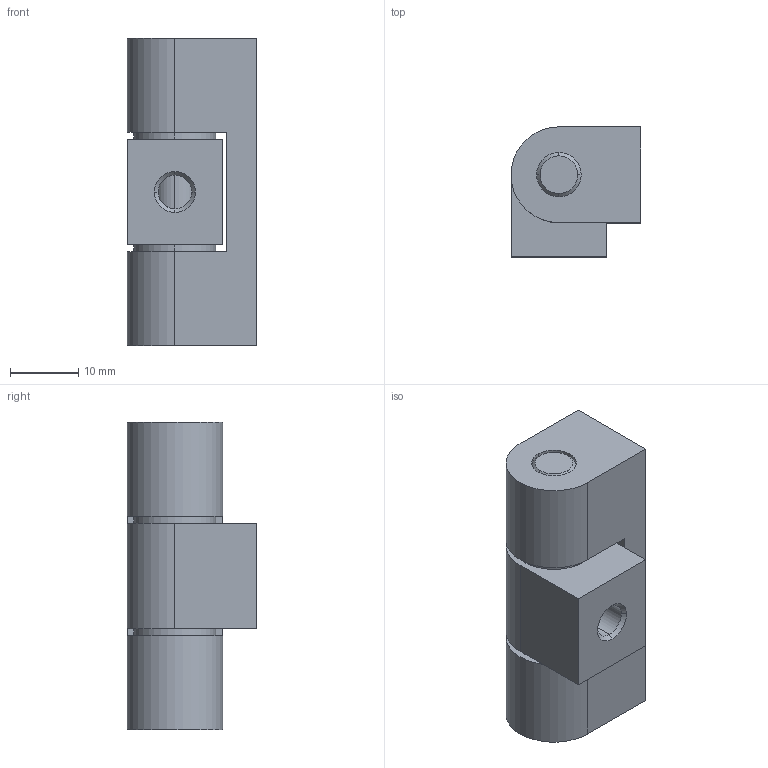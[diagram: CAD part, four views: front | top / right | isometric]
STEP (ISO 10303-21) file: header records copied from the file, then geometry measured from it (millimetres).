
FILE_DESCRIPTION((''),'2;1');
FILE_NAME('HS50.stp','2015-07-17T11:57:49',(''),(''),'Mechanical Desktop 2006','Mechanical Desktop 2006',', , ');
FILE_SCHEMA(('CONFIG_CONTROL_DESIGN'));
Length unit declared in the file: millimetre
Products named in the file (6): HS50; 1; 2; 3; 4; 5
Assembly tree (5 placements, depth 2):
  HS50
    1
    2
    3
    4
    5
Bounding box: 19 x 19 x 45 mm (x, y, z)
Volume: 11277.1 mm3; surface area: 7382.9 mm2
Topology: 5 solids, 5 shells, 70 faces, 167 edges, 109 vertices
Faces by surface type: cylinder 29, plane 21, cone 20
Entity records: 2666 total; most frequent: CARTESIAN_POINT 558, DIRECTION 402, ORIENTED_EDGE 334, EDGE_CURVE 167, AXIS2_PLACEMENT_3D 163, VERTEX_POINT 109, EDGE_LOOP 88, CIRCLE 82
